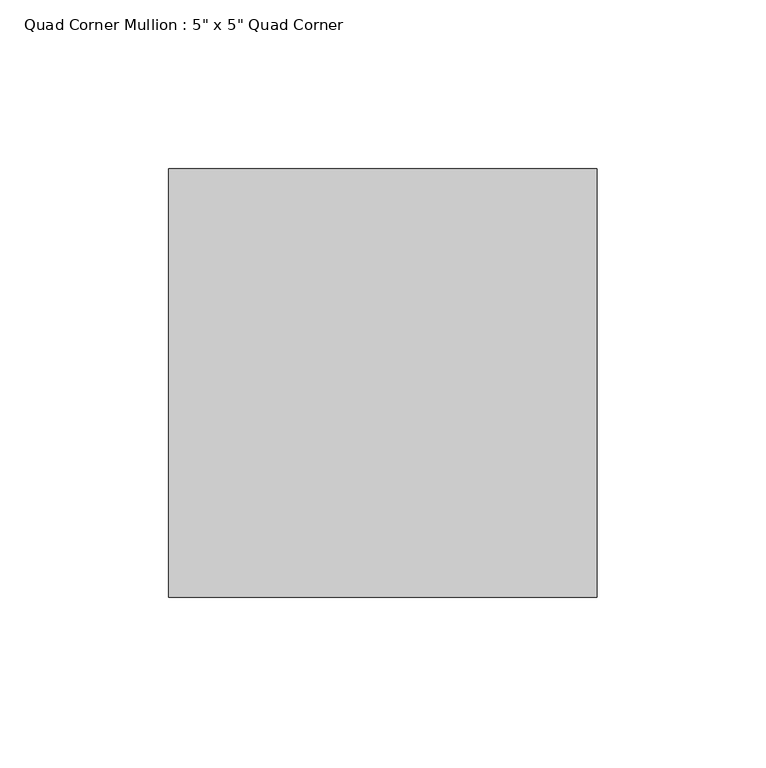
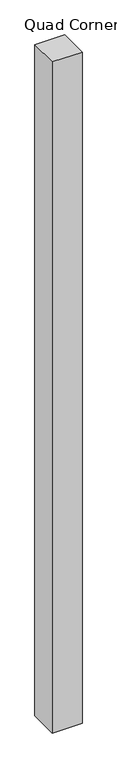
"""IFC4 building model written with IfcOpenShell, lengths in millimetres: member geometry."""

from ifc_helpers import new_model, si_unit, frame, origin, place, context, project, spatial, polyline, outline, extrude, source, transform, mapped, element, save


def member_4c95cb00(model_context):
    return source(origin(), model_context, "Body", "SweptSolid", [
        extrude(outline(polyline([(63.5, 63.5), (63.5, -63.5), (-63.5, -63.5), (-63.5, 63.5), (63.5, 63.5)])), frame((0.0, 0.0, -3016.25), z_axis=(0.0, 0.0, 1.0), x_axis=(1.0, 0.0, 0.0)), (0.0, 0.0, 1.0), 3016.25),
    ])


if __name__ == "__main__":
    model = new_model("IFC4")
    model_context = context("Model", 3, world=origin())
    ifc_project = project(units=[si_unit("LENGTHUNIT", "METRE", prefix="MILLI")], contexts=[model_context])
    site = spatial("IfcSite", under=ifc_project)
    building = spatial("IfcBuilding", under=site)
    placement = place(None, origin())
    member_shape = member_4c95cb00(model_context)
    element("IfcMember", 1, ObjectType="Quad Corner Mullion : 5\" x 5\" Quad Corner", at=placement, inside=building, context=model_context, shape_type="MappedRepresentation", body=[
        mapped(member_shape, transform((0.0, 0.0, 0.0), x_axis=(1.0, 0.0, 0.0), y_axis=(0.0, 1.0, 0.0), z_axis=(0.0, 0.0, 1.0))),
    ])
    save(model, "model.ifc")
